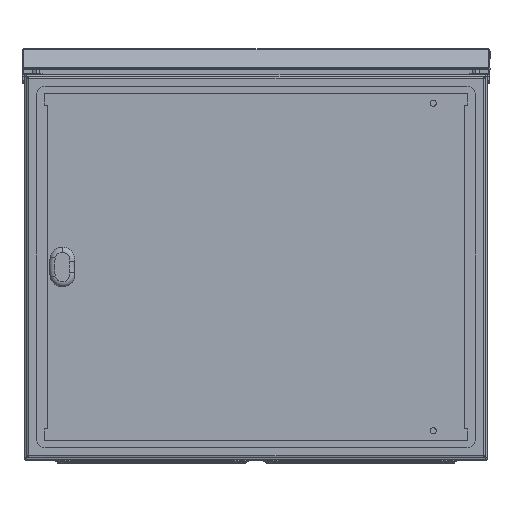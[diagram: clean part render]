
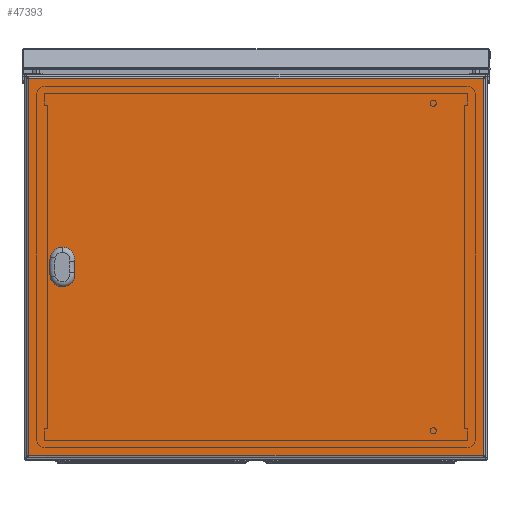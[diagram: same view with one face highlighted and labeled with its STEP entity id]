
A CAD part, top view. The second image highlights one B-rep face of the part: STEP entity #47393.
In plain terms, the highlighted planar face has unit normal (0, 0, 1) as drawn and (0, 0, -1) by its records, which use the part's own axes.
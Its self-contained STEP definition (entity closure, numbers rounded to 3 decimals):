
#853 = VERTEX_POINT ( 'NONE', #1619 ) ;
#1179 = LINE ( 'NONE', #44367, #26803 ) ;
#1619 = CARTESIAN_POINT ( 'NONE',  ( 295., 245., 0. ) ) ;
#1815 = DIRECTION ( 'NONE',  ( 1., 0., 0. ) ) ;
#1835 = CIRCLE ( 'NONE', #38162, 11.25 ) ;
#1945 = DIRECTION ( 'NONE',  ( 0., 1., 0. ) ) ;
#2038 = VECTOR ( 'NONE', #1945, 1000. ) ;
#2307 = ORIENTED_EDGE ( 'NONE', *, *, #49377, .F. ) ;
#2409 = CIRCLE ( 'NONE', #42884, 11.25 ) ;
#5526 = CARTESIAN_POINT ( 'NONE',  ( 261.05, 5.056, 0. ) ) ;
#5530 = VECTOR ( 'NONE', #1815, 1000. ) ;
#5573 = LINE ( 'NONE', #45911, #6770 ) ;
#6272 = DIRECTION ( 'NONE',  ( 0., 0., -1. ) ) ;
#6706 = LINE ( 'NONE', #30259, #5530 ) ;
#6770 = VECTOR ( 'NONE', #41773, 1000. ) ;
#7529 = VERTEX_POINT ( 'NONE', #5526 ) ;
#7927 = CARTESIAN_POINT ( 'NONE',  ( 251., 0., 0. ) ) ;
#8145 = ORIENTED_EDGE ( 'NONE', *, *, #16946, .F. ) ;
#8713 = VERTEX_POINT ( 'NONE', #45864 ) ;
#9784 = LINE ( 'NONE', #14437, #28839 ) ;
#10209 = VERTEX_POINT ( 'NONE', #15514 ) ;
#10376 = VECTOR ( 'NONE', #31186, 1000. ) ;
#12473 = VERTEX_POINT ( 'NONE', #13663 ) ;
#13124 = ORIENTED_EDGE ( 'NONE', *, *, #33677, .F. ) ;
#13452 = DIRECTION ( 'NONE',  ( -1., 0., 0. ) ) ;
#13663 = CARTESIAN_POINT ( 'NONE',  ( -295., -245., 0. ) ) ;
#13871 = ORIENTED_EDGE ( 'NONE', *, *, #29346, .F. ) ;
#14437 = CARTESIAN_POINT ( 'NONE',  ( 261.05, -5.056, 0. ) ) ;
#15157 = DIRECTION ( 'NONE',  ( 0., 0., -1. ) ) ;
#15514 = CARTESIAN_POINT ( 'NONE',  ( -295., 245., 0. ) ) ;
#15621 = CIRCLE ( 'NONE', #28846, 11.25 ) ;
#15978 = ORIENTED_EDGE ( 'NONE', *, *, #24697, .T. ) ;
#16494 = AXIS2_PLACEMENT_3D ( 'NONE', #35073, #15157, #13452 ) ;
#16927 = EDGE_CURVE ( 'NONE', #8713, #43312, #15621, .T. ) ;
#16946 = EDGE_CURVE ( 'NONE', #23949, #7529, #2409, .T. ) ;
#17766 = ORIENTED_EDGE ( 'NONE', *, *, #33033, .T. ) ;
#18519 = VERTEX_POINT ( 'NONE', #40619 ) ;
#18818 = DIRECTION ( 'NONE',  ( -1., 0., 0. ) ) ;
#21019 = DIRECTION ( 'NONE',  ( -1., 0., 0. ) ) ;
#21710 = ORIENTED_EDGE ( 'NONE', *, *, #22287, .T. ) ;
#21883 = VERTEX_POINT ( 'NONE', #30701 ) ;
#22287 = EDGE_CURVE ( 'NONE', #12473, #10209, #37376, .T. ) ;
#22707 = DIRECTION ( 'NONE',  ( 0., 0., -1. ) ) ;
#22895 = CARTESIAN_POINT ( 'NONE',  ( 240.95, -5.056, 0. ) ) ;
#23367 = ORIENTED_EDGE ( 'NONE', *, *, #32678, .F. ) ;
#23433 = CARTESIAN_POINT ( 'NONE',  ( 261.05, -5.056, 0. ) ) ;
#23949 = VERTEX_POINT ( 'NONE', #29167 ) ;
#24697 = EDGE_CURVE ( 'NONE', #10209, #853, #6706, .T. ) ;
#25592 = DIRECTION ( 'NONE',  ( 0., -1., 0. ) ) ;
#25883 = CARTESIAN_POINT ( 'NONE',  ( 256.056, -10.05, 0. ) ) ;
#26517 = CIRCLE ( 'NONE', #40452, 11.25 ) ;
#26803 = VECTOR ( 'NONE', #44633, 1000. ) ;
#27075 = LINE ( 'NONE', #42819, #10376 ) ;
#28839 = VECTOR ( 'NONE', #25592, 1000. ) ;
#28846 = AXIS2_PLACEMENT_3D ( 'NONE', #37314, #6272, #30326 ) ;
#29167 = CARTESIAN_POINT ( 'NONE',  ( 256.056, 10.05, 0. ) ) ;
#29346 = EDGE_CURVE ( 'NONE', #21883, #23949, #1179, .T. ) ;
#29425 = ORIENTED_EDGE ( 'NONE', *, *, #41875, .T. ) ;
#30141 = ORIENTED_EDGE ( 'NONE', *, *, #16927, .F. ) ;
#30183 = VECTOR ( 'NONE', #46978, 1000. ) ;
#30259 = CARTESIAN_POINT ( 'NONE',  ( 297.5, 245., 0. ) ) ;
#30326 = DIRECTION ( 'NONE',  ( -1., 0., 0. ) ) ;
#30351 = EDGE_CURVE ( 'NONE', #43312, #18519, #34856, .T. ) ;
#30701 = CARTESIAN_POINT ( 'NONE',  ( 245.944, 10.05, 0. ) ) ;
#31052 = ORIENTED_EDGE ( 'NONE', *, *, #30351, .F. ) ;
#31186 = DIRECTION ( 'NONE',  ( 0., -1., 0. ) ) ;
#31372 = VECTOR ( 'NONE', #21019, 1000. ) ;
#32189 = VERTEX_POINT ( 'NONE', #25883 ) ;
#32678 = EDGE_CURVE ( 'NONE', #48735, #32189, #1835, .T. ) ;
#33033 = EDGE_CURVE ( 'NONE', #44247, #12473, #5573, .T. ) ;
#33162 = LINE ( 'NONE', #33678, #31372 ) ;
#33677 = EDGE_CURVE ( 'NONE', #7529, #48735, #9784, .T. ) ;
#33678 = CARTESIAN_POINT ( 'NONE',  ( 256.056, -10.05, 0. ) ) ;
#33710 = DIRECTION ( 'NONE',  ( 1., 0., 0. ) ) ;
#34214 = CARTESIAN_POINT ( 'NONE',  ( 251., 0., 0. ) ) ;
#34856 = LINE ( 'NONE', #47485, #30183 ) ;
#35073 = CARTESIAN_POINT ( 'NONE',  ( 297.5, 247.5, 0. ) ) ;
#35655 = EDGE_CURVE ( 'NONE', #18519, #21883, #26517, .T. ) ;
#36098 = DIRECTION ( 'NONE',  ( 0., 0., -1. ) ) ;
#37314 = CARTESIAN_POINT ( 'NONE',  ( 251., 0., 0. ) ) ;
#37324 = EDGE_LOOP ( 'NONE', ( #30141, #2307, #23367, #13124, #8145, #13871, #47174, #31052 ) ) ;
#37376 = LINE ( 'NONE', #45399, #2038 ) ;
#38162 = AXIS2_PLACEMENT_3D ( 'NONE', #7927, #22707, #18818 ) ;
#38570 = CARTESIAN_POINT ( 'NONE',  ( 295., -245., 0. ) ) ;
#40452 = AXIS2_PLACEMENT_3D ( 'NONE', #47711, #36098, #47980 ) ;
#40619 = CARTESIAN_POINT ( 'NONE',  ( 240.95, 5.056, 0. ) ) ;
#41094 = PLANE ( 'NONE',  #16494 ) ;
#41351 = FACE_BOUND ( 'NONE', #37324, .T. ) ;
#41773 = DIRECTION ( 'NONE',  ( -1., 0., 0. ) ) ;
#41875 = EDGE_CURVE ( 'NONE', #853, #44247, #27075, .T. ) ;
#42819 = CARTESIAN_POINT ( 'NONE',  ( 295., -247.5, 0. ) ) ;
#42884 = AXIS2_PLACEMENT_3D ( 'NONE', #34214, #46094, #33710 ) ;
#43312 = VERTEX_POINT ( 'NONE', #22895 ) ;
#44247 = VERTEX_POINT ( 'NONE', #38570 ) ;
#44367 = CARTESIAN_POINT ( 'NONE',  ( 256.056, 10.05, 0. ) ) ;
#44633 = DIRECTION ( 'NONE',  ( 1., 0., 0. ) ) ;
#45399 = CARTESIAN_POINT ( 'NONE',  ( -295., 247.5, 0. ) ) ;
#45864 = CARTESIAN_POINT ( 'NONE',  ( 245.944, -10.05, 0. ) ) ;
#45911 = CARTESIAN_POINT ( 'NONE',  ( -297.5, -245., 0. ) ) ;
#46094 = DIRECTION ( 'NONE',  ( 0., 0., -1. ) ) ;
#46978 = DIRECTION ( 'NONE',  ( 0., 1., 0. ) ) ;
#47174 = ORIENTED_EDGE ( 'NONE', *, *, #35655, .F. ) ;
#47393 = ADVANCED_FACE ( 'NONE', ( #41351, #50552 ), #41094, .T. ) ;
#47485 = CARTESIAN_POINT ( 'NONE',  ( 240.95, -5.056, 0. ) ) ;
#47711 = CARTESIAN_POINT ( 'NONE',  ( 251., 0., 0. ) ) ;
#47980 = DIRECTION ( 'NONE',  ( 1., 0., 0. ) ) ;
#48735 = VERTEX_POINT ( 'NONE', #23433 ) ;
#48899 = EDGE_LOOP ( 'NONE', ( #21710, #15978, #29425, #17766 ) ) ;
#49377 = EDGE_CURVE ( 'NONE', #32189, #8713, #33162, .T. ) ;
#50552 = FACE_OUTER_BOUND ( 'NONE', #48899, .T. ) ;
